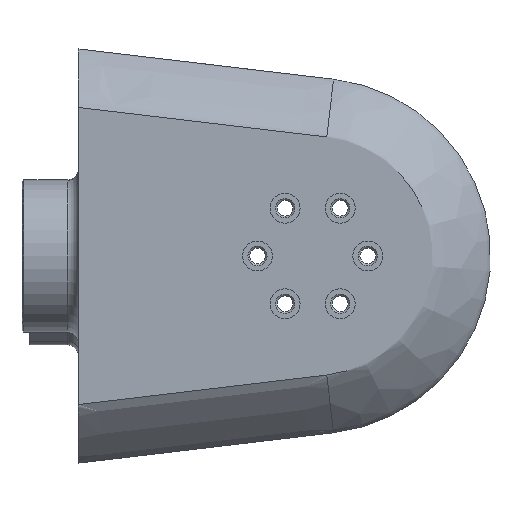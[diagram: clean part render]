
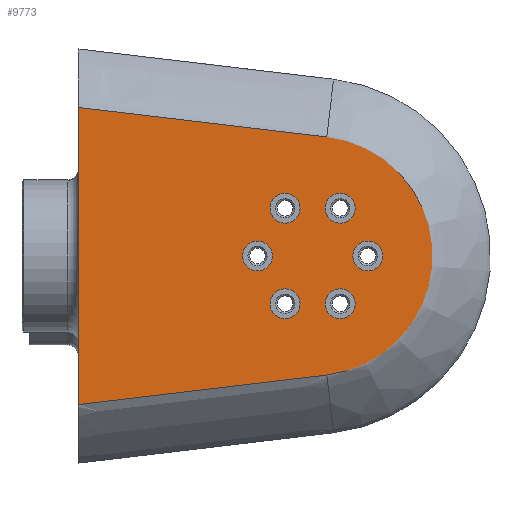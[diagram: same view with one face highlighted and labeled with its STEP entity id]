
A CAD part, front view. The second image highlights one B-rep face of the part: STEP entity #9773.
In plain terms, the highlighted planar face has unit normal (0, -1, 0).
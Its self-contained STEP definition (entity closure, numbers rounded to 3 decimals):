
#1350=DIRECTION('',(0.,0.,-1.));
#1351=VECTOR('',#1350,81.775);
#1352=CARTESIAN_POINT('',(135.5,-55.,387.388));
#1353=LINE('',#1352,#1351);
#2309=CARTESIAN_POINT('',(135.5,-55.,387.388));
#2385=CARTESIAN_POINT('',(203.89,-55.,313.73));
#2917=DIRECTION('',(0.993,0.,-0.118));
#2918=VECTOR('',#2917,68.87);
#2919=CARTESIAN_POINT('',(135.5,-55.,387.388));
#2920=LINE('',#2919,#2918);
#2921=CARTESIAN_POINT('',(200.,-55.001,346.5));
#2922=DIRECTION('',(0.,1.,0.));
#2923=DIRECTION('',(0.118,0.,0.993));
#2924=AXIS2_PLACEMENT_3D('',#2921,#2922,#2923);
#2926=DIRECTION('',(-0.993,0.,-0.118));
#2927=VECTOR('',#2926,68.87);
#2928=CARTESIAN_POINT('',(203.89,-55.,313.73));
#2929=LINE('',#2928,#2927);
#2930=CARTESIAN_POINT('',(215.18,-55.,346.5));
#2931=DIRECTION('',(0.,-1.,0.));
#2932=DIRECTION('',(0.,0.,-1.));
#2933=AXIS2_PLACEMENT_3D('',#2930,#2931,#2932);
#2935=CARTESIAN_POINT('',(215.18,-55.,346.5));
#2936=DIRECTION('',(0.,-1.,0.));
#2937=DIRECTION('',(0.,0.,1.));
#2938=AXIS2_PLACEMENT_3D('',#2935,#2936,#2937);
#2940=CARTESIAN_POINT('',(207.59,-55.,333.354));
#2941=DIRECTION('',(0.,-1.,0.));
#2942=DIRECTION('',(-0.866,0.,-0.5));
#2943=AXIS2_PLACEMENT_3D('',#2940,#2941,#2942);
#2945=CARTESIAN_POINT('',(207.59,-55.,333.354));
#2946=DIRECTION('',(0.,-1.,0.));
#2947=DIRECTION('',(0.866,0.,0.5));
#2948=AXIS2_PLACEMENT_3D('',#2945,#2946,#2947);
#2950=CARTESIAN_POINT('',(192.41,-55.,333.354));
#2951=DIRECTION('',(0.,-1.,0.));
#2952=DIRECTION('',(-0.866,0.,0.5));
#2953=AXIS2_PLACEMENT_3D('',#2950,#2951,#2952);
#2955=CARTESIAN_POINT('',(192.41,-55.,333.354));
#2956=DIRECTION('',(0.,-1.,0.));
#2957=DIRECTION('',(0.866,0.,-0.5));
#2958=AXIS2_PLACEMENT_3D('',#2955,#2956,#2957);
#2960=CARTESIAN_POINT('',(184.82,-55.,346.5));
#2961=DIRECTION('',(0.,-1.,0.));
#2962=DIRECTION('',(0.,0.,1.));
#2963=AXIS2_PLACEMENT_3D('',#2960,#2961,#2962);
#2965=CARTESIAN_POINT('',(184.82,-55.,346.5));
#2966=DIRECTION('',(0.,-1.,0.));
#2967=DIRECTION('',(0.,0.,-1.));
#2968=AXIS2_PLACEMENT_3D('',#2965,#2966,#2967);
#2970=CARTESIAN_POINT('',(192.41,-55.,359.646));
#2971=DIRECTION('',(0.,-1.,0.));
#2972=DIRECTION('',(0.866,0.,0.5));
#2973=AXIS2_PLACEMENT_3D('',#2970,#2971,#2972);
#2975=CARTESIAN_POINT('',(192.41,-55.,359.646));
#2976=DIRECTION('',(0.,-1.,0.));
#2977=DIRECTION('',(-0.866,0.,-0.5));
#2978=AXIS2_PLACEMENT_3D('',#2975,#2976,#2977);
#2980=CARTESIAN_POINT('',(207.59,-55.,359.646));
#2981=DIRECTION('',(0.,-1.,0.));
#2982=DIRECTION('',(0.866,0.,-0.5));
#2983=AXIS2_PLACEMENT_3D('',#2980,#2981,#2982);
#2985=CARTESIAN_POINT('',(207.59,-55.,359.646));
#2986=DIRECTION('',(0.,-1.,0.));
#2987=DIRECTION('',(-0.866,0.,0.5));
#2988=AXIS2_PLACEMENT_3D('',#2985,#2986,#2987);
#5687=VERTEX_POINT('',#2309);
#5688=CARTESIAN_POINT('',(135.5,-55.,305.612));
#5689=VERTEX_POINT('',#5688);
#5769=VERTEX_POINT('',#2385);
#5770=CARTESIAN_POINT('',(203.89,-55.001,379.27));
#5771=VERTEX_POINT('',#5770);
#5772=CARTESIAN_POINT('',(215.18,-55.,342.375));
#5773=CARTESIAN_POINT('',(215.18,-55.,350.625));
#5774=VERTEX_POINT('',#5772);
#5775=VERTEX_POINT('',#5773);
#5776=CARTESIAN_POINT('',(204.018,-55.,331.291));
#5777=CARTESIAN_POINT('',(211.162,-55.,335.416));
#5778=VERTEX_POINT('',#5776);
#5779=VERTEX_POINT('',#5777);
#5780=CARTESIAN_POINT('',(188.838,-55.,335.416));
#5781=CARTESIAN_POINT('',(195.982,-55.,331.291));
#5782=VERTEX_POINT('',#5780);
#5783=VERTEX_POINT('',#5781);
#5784=CARTESIAN_POINT('',(184.82,-55.,350.625));
#5785=CARTESIAN_POINT('',(184.82,-55.,342.375));
#5786=VERTEX_POINT('',#5784);
#5787=VERTEX_POINT('',#5785);
#5788=CARTESIAN_POINT('',(195.982,-55.,361.709));
#5789=CARTESIAN_POINT('',(188.838,-55.,357.584));
#5790=VERTEX_POINT('',#5788);
#5791=VERTEX_POINT('',#5789);
#5792=CARTESIAN_POINT('',(211.162,-55.,357.584));
#5793=CARTESIAN_POINT('',(204.018,-55.,361.709));
#5794=VERTEX_POINT('',#5792);
#5795=VERTEX_POINT('',#5793);
#9726=CARTESIAN_POINT('',(255.5,-55.,346.5));
#9727=DIRECTION('',(0.,1.,0.));
#9728=DIRECTION('',(0.,0.,1.));
#9729=AXIS2_PLACEMENT_3D('',#9726,#9727,#9728);
#9730=PLANE('',#9729);
#9731=ORIENTED_EDGE('',*,*,#9164,.T.);
#9732=ORIENTED_EDGE('',*,*,#9189,.T.);
#9733=ORIENTED_EDGE('',*,*,#9217,.T.);
#9734=ORIENTED_EDGE('',*,*,#7755,.F.);
#9735=EDGE_LOOP('',(#9731,#9732,#9733,#9734));
#9736=FACE_OUTER_BOUND('',#9735,.F.);
#9738=ORIENTED_EDGE('',*,*,#9737,.T.);
#9740=ORIENTED_EDGE('',*,*,#9739,.T.);
#9741=EDGE_LOOP('',(#9738,#9740));
#9742=FACE_BOUND('',#9741,.F.);
#9744=ORIENTED_EDGE('',*,*,#9743,.T.);
#9746=ORIENTED_EDGE('',*,*,#9745,.T.);
#9747=EDGE_LOOP('',(#9744,#9746));
#9748=FACE_BOUND('',#9747,.F.);
#9750=ORIENTED_EDGE('',*,*,#9749,.T.);
#9752=ORIENTED_EDGE('',*,*,#9751,.T.);
#9753=EDGE_LOOP('',(#9750,#9752));
#9754=FACE_BOUND('',#9753,.F.);
#9756=ORIENTED_EDGE('',*,*,#9755,.T.);
#9758=ORIENTED_EDGE('',*,*,#9757,.T.);
#9759=EDGE_LOOP('',(#9756,#9758));
#9760=FACE_BOUND('',#9759,.F.);
#9762=ORIENTED_EDGE('',*,*,#9761,.T.);
#9764=ORIENTED_EDGE('',*,*,#9763,.T.);
#9765=EDGE_LOOP('',(#9762,#9764));
#9766=FACE_BOUND('',#9765,.F.);
#9768=ORIENTED_EDGE('',*,*,#9767,.T.);
#9770=ORIENTED_EDGE('',*,*,#9769,.T.);
#9771=EDGE_LOOP('',(#9768,#9770));
#9772=FACE_BOUND('',#9771,.F.);
#9773=ADVANCED_FACE('',(#9736,#9742,#9748,#9754,#9760,#9766,#9772),#9730,.F.);
#2925=CIRCLE('',#2924,33.);
#2934=CIRCLE('',#2933,4.125);
#2939=CIRCLE('',#2938,4.125);
#2944=CIRCLE('',#2943,4.125);
#2949=CIRCLE('',#2948,4.125);
#2954=CIRCLE('',#2953,4.125);
#2959=CIRCLE('',#2958,4.125);
#2964=CIRCLE('',#2963,4.125);
#2969=CIRCLE('',#2968,4.125);
#2974=CIRCLE('',#2973,4.125);
#2979=CIRCLE('',#2978,4.125);
#2984=CIRCLE('',#2983,4.125);
#2989=CIRCLE('',#2988,4.125);
#7755=EDGE_CURVE('',#5687,#5689,#1353,.T.);
#9164=EDGE_CURVE('',#5687,#5771,#2920,.T.);
#9189=EDGE_CURVE('',#5771,#5769,#2925,.T.);
#9217=EDGE_CURVE('',#5769,#5689,#2929,.T.);
#9737=EDGE_CURVE('',#5774,#5775,#2934,.T.);
#9739=EDGE_CURVE('',#5775,#5774,#2939,.T.);
#9743=EDGE_CURVE('',#5778,#5779,#2944,.T.);
#9745=EDGE_CURVE('',#5779,#5778,#2949,.T.);
#9749=EDGE_CURVE('',#5782,#5783,#2954,.T.);
#9751=EDGE_CURVE('',#5783,#5782,#2959,.T.);
#9755=EDGE_CURVE('',#5786,#5787,#2964,.T.);
#9757=EDGE_CURVE('',#5787,#5786,#2969,.T.);
#9761=EDGE_CURVE('',#5790,#5791,#2974,.T.);
#9763=EDGE_CURVE('',#5791,#5790,#2979,.T.);
#9767=EDGE_CURVE('',#5794,#5795,#2984,.T.);
#9769=EDGE_CURVE('',#5795,#5794,#2989,.T.);
